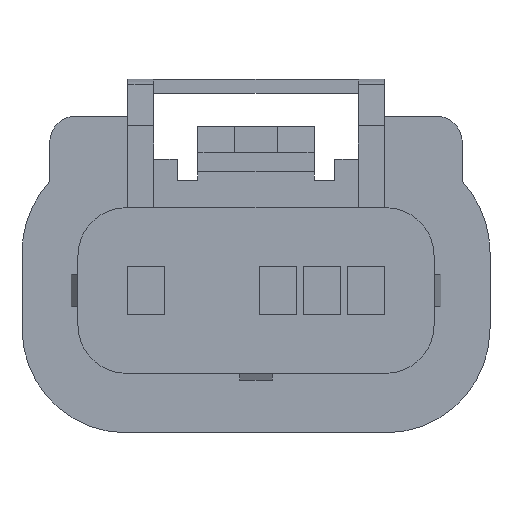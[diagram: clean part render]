
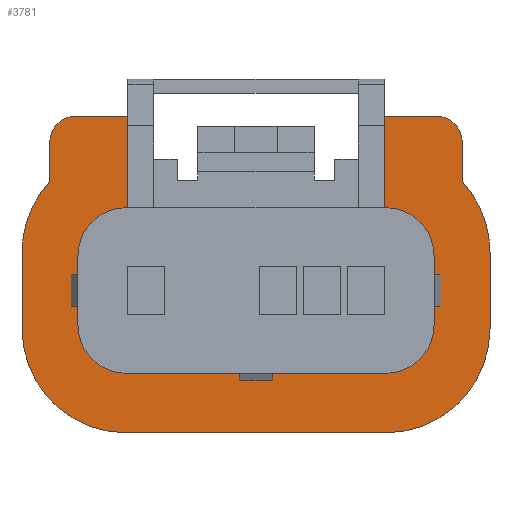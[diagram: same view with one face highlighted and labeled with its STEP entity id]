
A CAD part, left-side view. The second image highlights one B-rep face of the part: STEP entity #3781.
In plain terms, the highlighted planar face has unit normal (-1, 0, 0).
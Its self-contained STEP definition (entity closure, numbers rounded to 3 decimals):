
#674=CARTESIAN_POINT('Axis2P3D Location',(-19.88,0.,0.)) ;
#2537=CARTESIAN_POINT('Vertex',(-19.88,-7.4,12.99)) ;
#2540=CARTESIAN_POINT('Line Origine',(-19.88,-7.4,15.625)) ;
#2544=CARTESIAN_POINT('Vertex',(-19.88,-7.4,18.26)) ;
#2573=CARTESIAN_POINT('Vertex',(-19.88,7.4,18.26)) ;
#2576=CARTESIAN_POINT('Line Origine',(-19.88,7.4,15.625)) ;
#2580=CARTESIAN_POINT('Vertex',(-19.88,7.4,12.99)) ;
#2605=CARTESIAN_POINT('Line Origine',(-19.88,8.9,18.26)) ;
#2609=CARTESIAN_POINT('Vertex',(-19.88,10.4,18.26)) ;
#2624=CARTESIAN_POINT('Line Origine',(-19.88,-8.9,18.26)) ;
#2628=CARTESIAN_POINT('Vertex',(-19.88,-10.4,18.26)) ;
#2648=CARTESIAN_POINT('Axis2P3D Location',(-19.88,-10.4,16.76)) ;
#2652=CARTESIAN_POINT('Vertex',(-19.88,-11.9,16.76)) ;
#2672=CARTESIAN_POINT('Line Origine',(-19.88,-11.9,15.627)) ;
#2676=CARTESIAN_POINT('Vertex',(-19.88,-11.9,14.493)) ;
#2700=CARTESIAN_POINT('Vertex',(-19.88,-13.5,10.41)) ;
#2703=CARTESIAN_POINT('Axis2P3D Location',(-19.88,-7.49,10.41)) ;
#2720=CARTESIAN_POINT('Line Origine',(-19.88,-13.5,8.21)) ;
#2724=CARTESIAN_POINT('Vertex',(-19.88,-13.5,6.01)) ;
#2752=CARTESIAN_POINT('Vertex',(-19.88,13.5,6.01)) ;
#2755=CARTESIAN_POINT('Line Origine',(-19.88,13.5,8.21)) ;
#2759=CARTESIAN_POINT('Vertex',(-19.88,13.5,10.41)) ;
#2787=CARTESIAN_POINT('Vertex',(-19.88,11.9,14.493)) ;
#2790=CARTESIAN_POINT('Axis2P3D Location',(-19.88,7.49,10.41)) ;
#2807=CARTESIAN_POINT('Line Origine',(-19.88,11.9,15.627)) ;
#2811=CARTESIAN_POINT('Vertex',(-19.88,11.9,16.76)) ;
#2831=CARTESIAN_POINT('Axis2P3D Location',(-19.88,10.4,16.76)) ;
#2852=CARTESIAN_POINT('Vertex',(-19.88,-7.49,0.)) ;
#2855=CARTESIAN_POINT('Axis2P3D Location',(-19.88,-7.49,6.01)) ;
#2876=CARTESIAN_POINT('Vertex',(-19.88,7.49,0.)) ;
#2879=CARTESIAN_POINT('Line Origine',(-19.88,0.,0.)) ;
#2896=CARTESIAN_POINT('Axis2P3D Location',(-19.88,7.49,6.01)) ;
#3109=CARTESIAN_POINT('Vertex',(-19.88,-10.27,6.21)) ;
#3112=CARTESIAN_POINT('Line Origine',(-19.88,-10.27,8.21)) ;
#3116=CARTESIAN_POINT('Vertex',(-19.88,-10.27,10.21)) ;
#3174=CARTESIAN_POINT('Vertex',(-19.88,-7.49,3.43)) ;
#3177=CARTESIAN_POINT('Axis2P3D Location',(-19.88,-7.49,6.21)) ;
#3198=CARTESIAN_POINT('Vertex',(-19.88,7.49,3.43)) ;
#3201=CARTESIAN_POINT('Line Origine',(-19.88,0.,3.43)) ;
#3256=CARTESIAN_POINT('Vertex',(-19.88,10.27,6.21)) ;
#3259=CARTESIAN_POINT('Axis2P3D Location',(-19.88,7.49,6.21)) ;
#3280=CARTESIAN_POINT('Vertex',(-19.88,10.27,10.21)) ;
#3283=CARTESIAN_POINT('Line Origine',(-19.88,10.27,8.21)) ;
#3338=CARTESIAN_POINT('Vertex',(-19.88,7.49,12.99)) ;
#3341=CARTESIAN_POINT('Axis2P3D Location',(-19.88,7.49,10.21)) ;
#3353=CARTESIAN_POINT('Line Origine',(-19.88,7.445,12.99)) ;
#3369=CARTESIAN_POINT('Vertex',(-19.88,-7.49,12.99)) ;
#3372=CARTESIAN_POINT('Line Origine',(-19.88,-7.445,12.99)) ;
#3389=CARTESIAN_POINT('Axis2P3D Location',(-19.88,-7.49,10.21)) ;
#675=DIRECTION('Axis2P3D Direction',(1.,0.,0.)) ;
#676=DIRECTION('Axis2P3D XDirection',(0.,1.,0.)) ;
#2541=DIRECTION('Vector Direction',(0.,0.,-1.)) ;
#2577=DIRECTION('Vector Direction',(0.,0.,-1.)) ;
#2606=DIRECTION('Vector Direction',(0.,1.,0.)) ;
#2625=DIRECTION('Vector Direction',(0.,1.,0.)) ;
#2649=DIRECTION('Axis2P3D Direction',(-1.,0.,0.)) ;
#2673=DIRECTION('Vector Direction',(0.,0.,1.)) ;
#2704=DIRECTION('Axis2P3D Direction',(1.,0.,0.)) ;
#2721=DIRECTION('Vector Direction',(0.,0.,-1.)) ;
#2756=DIRECTION('Vector Direction',(0.,0.,1.)) ;
#2791=DIRECTION('Axis2P3D Direction',(1.,0.,0.)) ;
#2808=DIRECTION('Vector Direction',(0.,0.,-1.)) ;
#2832=DIRECTION('Axis2P3D Direction',(-1.,0.,0.)) ;
#2856=DIRECTION('Axis2P3D Direction',(1.,0.,0.)) ;
#2880=DIRECTION('Vector Direction',(0.,-1.,0.)) ;
#2897=DIRECTION('Axis2P3D Direction',(1.,0.,0.)) ;
#3113=DIRECTION('Vector Direction',(0.,0.,1.)) ;
#3178=DIRECTION('Axis2P3D Direction',(1.,0.,0.)) ;
#3202=DIRECTION('Vector Direction',(0.,-1.,0.)) ;
#3260=DIRECTION('Axis2P3D Direction',(1.,0.,0.)) ;
#3284=DIRECTION('Vector Direction',(0.,0.,-1.)) ;
#3342=DIRECTION('Axis2P3D Direction',(1.,0.,0.)) ;
#3354=DIRECTION('Vector Direction',(0.,1.,0.)) ;
#3373=DIRECTION('Vector Direction',(0.,1.,0.)) ;
#3390=DIRECTION('Axis2P3D Direction',(1.,0.,0.)) ;
#677=AXIS2_PLACEMENT_3D('Plane Axis2P3D',#674,#675,#676) ;
#2650=AXIS2_PLACEMENT_3D('Circle Axis2P3D',#2648,#2649,$) ;
#2705=AXIS2_PLACEMENT_3D('Circle Axis2P3D',#2703,#2704,$) ;
#2792=AXIS2_PLACEMENT_3D('Circle Axis2P3D',#2790,#2791,$) ;
#2833=AXIS2_PLACEMENT_3D('Circle Axis2P3D',#2831,#2832,$) ;
#2857=AXIS2_PLACEMENT_3D('Circle Axis2P3D',#2855,#2856,$) ;
#2898=AXIS2_PLACEMENT_3D('Circle Axis2P3D',#2896,#2897,$) ;
#3179=AXIS2_PLACEMENT_3D('Circle Axis2P3D',#3177,#3178,$) ;
#3261=AXIS2_PLACEMENT_3D('Circle Axis2P3D',#3259,#3260,$) ;
#3343=AXIS2_PLACEMENT_3D('Circle Axis2P3D',#3341,#3342,$) ;
#3391=AXIS2_PLACEMENT_3D('Circle Axis2P3D',#3389,#3390,$) ;
#3756=ORIENTED_EDGE('',*,*,#2835,.F.) ;
#3757=ORIENTED_EDGE('',*,*,#2813,.T.) ;
#3758=ORIENTED_EDGE('',*,*,#2794,.F.) ;
#3759=ORIENTED_EDGE('',*,*,#2761,.F.) ;
#3760=ORIENTED_EDGE('',*,*,#2900,.F.) ;
#3761=ORIENTED_EDGE('',*,*,#2883,.T.) ;
#3762=ORIENTED_EDGE('',*,*,#2859,.F.) ;
#3763=ORIENTED_EDGE('',*,*,#2726,.F.) ;
#3764=ORIENTED_EDGE('',*,*,#2707,.F.) ;
#3765=ORIENTED_EDGE('',*,*,#2678,.T.) ;
#3766=ORIENTED_EDGE('',*,*,#2654,.F.) ;
#3767=ORIENTED_EDGE('',*,*,#2630,.T.) ;
#3768=ORIENTED_EDGE('',*,*,#2546,.T.) ;
#3769=ORIENTED_EDGE('',*,*,#3376,.F.) ;
#3770=ORIENTED_EDGE('',*,*,#3393,.T.) ;
#3771=ORIENTED_EDGE('',*,*,#3118,.F.) ;
#3772=ORIENTED_EDGE('',*,*,#3181,.T.) ;
#3773=ORIENTED_EDGE('',*,*,#3205,.F.) ;
#3774=ORIENTED_EDGE('',*,*,#3263,.T.) ;
#3775=ORIENTED_EDGE('',*,*,#3287,.F.) ;
#3776=ORIENTED_EDGE('',*,*,#3345,.T.) ;
#3777=ORIENTED_EDGE('',*,*,#3357,.F.) ;
#3778=ORIENTED_EDGE('',*,*,#2582,.F.) ;
#3779=ORIENTED_EDGE('',*,*,#2611,.T.) ;
#2542=VECTOR('Line Direction',#2541,1.) ;
#2578=VECTOR('Line Direction',#2577,1.) ;
#2607=VECTOR('Line Direction',#2606,1.) ;
#2626=VECTOR('Line Direction',#2625,1.) ;
#2674=VECTOR('Line Direction',#2673,1.) ;
#2722=VECTOR('Line Direction',#2721,1.) ;
#2757=VECTOR('Line Direction',#2756,1.) ;
#2809=VECTOR('Line Direction',#2808,1.) ;
#2881=VECTOR('Line Direction',#2880,1.) ;
#3114=VECTOR('Line Direction',#3113,1.) ;
#3203=VECTOR('Line Direction',#3202,1.) ;
#3285=VECTOR('Line Direction',#3284,1.) ;
#3355=VECTOR('Line Direction',#3354,1.) ;
#3374=VECTOR('Line Direction',#3373,1.) ;
#3781=ADVANCED_FACE('BODY',(#3780),#678,.F.) ;
#2651=CIRCLE('generated circle',#2650,1.5) ;
#2706=CIRCLE('generated circle',#2705,6.01) ;
#2793=CIRCLE('generated circle',#2792,6.01) ;
#2834=CIRCLE('generated circle',#2833,1.5) ;
#2858=CIRCLE('generated circle',#2857,6.01) ;
#2899=CIRCLE('generated circle',#2898,6.01) ;
#3180=CIRCLE('generated circle',#3179,2.78) ;
#3262=CIRCLE('generated circle',#3261,2.78) ;
#3344=CIRCLE('generated circle',#3343,2.78) ;
#3392=CIRCLE('generated circle',#3391,2.78) ;
#2546=EDGE_CURVE('',#2545,#2538,#2543,.T.) ;
#2582=EDGE_CURVE('',#2574,#2581,#2579,.T.) ;
#2611=EDGE_CURVE('',#2574,#2610,#2608,.T.) ;
#2630=EDGE_CURVE('',#2629,#2545,#2627,.T.) ;
#2654=EDGE_CURVE('',#2629,#2653,#2651,.F.) ;
#2678=EDGE_CURVE('',#2677,#2653,#2675,.T.) ;
#2707=EDGE_CURVE('',#2677,#2701,#2706,.T.) ;
#2726=EDGE_CURVE('',#2701,#2725,#2723,.T.) ;
#2761=EDGE_CURVE('',#2753,#2760,#2758,.T.) ;
#2794=EDGE_CURVE('',#2760,#2788,#2793,.T.) ;
#2813=EDGE_CURVE('',#2812,#2788,#2810,.T.) ;
#2835=EDGE_CURVE('',#2812,#2610,#2834,.F.) ;
#2859=EDGE_CURVE('',#2725,#2853,#2858,.T.) ;
#2883=EDGE_CURVE('',#2877,#2853,#2882,.T.) ;
#2900=EDGE_CURVE('',#2877,#2753,#2899,.T.) ;
#3118=EDGE_CURVE('',#3110,#3117,#3115,.T.) ;
#3181=EDGE_CURVE('',#3110,#3175,#3180,.T.) ;
#3205=EDGE_CURVE('',#3199,#3175,#3204,.T.) ;
#3263=EDGE_CURVE('',#3199,#3257,#3262,.T.) ;
#3287=EDGE_CURVE('',#3281,#3257,#3286,.T.) ;
#3345=EDGE_CURVE('',#3281,#3339,#3344,.T.) ;
#3357=EDGE_CURVE('',#2581,#3339,#3356,.T.) ;
#3376=EDGE_CURVE('',#3370,#2538,#3375,.T.) ;
#3393=EDGE_CURVE('',#3370,#3117,#3392,.T.) ;
#3755=EDGE_LOOP('',(#3756,#3757,#3758,#3759,#3760,#3761,#3762,#3763,#3764,#3765,#3766,#3767,#3768,#3769,#3770,#3771,#3772,#3773,#3774,#3775,#3776,#3777,#3778,#3779)) ;
#3780=FACE_OUTER_BOUND('',#3755,.T.) ;
#2543=LINE('Line',#2540,#2542) ;
#2579=LINE('Line',#2576,#2578) ;
#2608=LINE('Line',#2605,#2607) ;
#2627=LINE('Line',#2624,#2626) ;
#2675=LINE('Line',#2672,#2674) ;
#2723=LINE('Line',#2720,#2722) ;
#2758=LINE('Line',#2755,#2757) ;
#2810=LINE('Line',#2807,#2809) ;
#2882=LINE('Line',#2879,#2881) ;
#3115=LINE('Line',#3112,#3114) ;
#3204=LINE('Line',#3201,#3203) ;
#3286=LINE('Line',#3283,#3285) ;
#3356=LINE('Line',#3353,#3355) ;
#3375=LINE('Line',#3372,#3374) ;
#678=PLANE('',#677) ;
#2538=VERTEX_POINT('',#2537) ;
#2545=VERTEX_POINT('',#2544) ;
#2574=VERTEX_POINT('',#2573) ;
#2581=VERTEX_POINT('',#2580) ;
#2610=VERTEX_POINT('',#2609) ;
#2629=VERTEX_POINT('',#2628) ;
#2653=VERTEX_POINT('',#2652) ;
#2677=VERTEX_POINT('',#2676) ;
#2701=VERTEX_POINT('',#2700) ;
#2725=VERTEX_POINT('',#2724) ;
#2753=VERTEX_POINT('',#2752) ;
#2760=VERTEX_POINT('',#2759) ;
#2788=VERTEX_POINT('',#2787) ;
#2812=VERTEX_POINT('',#2811) ;
#2853=VERTEX_POINT('',#2852) ;
#2877=VERTEX_POINT('',#2876) ;
#3110=VERTEX_POINT('',#3109) ;
#3117=VERTEX_POINT('',#3116) ;
#3175=VERTEX_POINT('',#3174) ;
#3199=VERTEX_POINT('',#3198) ;
#3257=VERTEX_POINT('',#3256) ;
#3281=VERTEX_POINT('',#3280) ;
#3339=VERTEX_POINT('',#3338) ;
#3370=VERTEX_POINT('',#3369) ;
